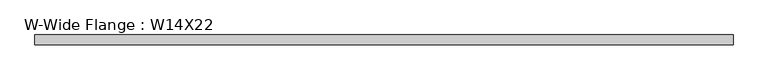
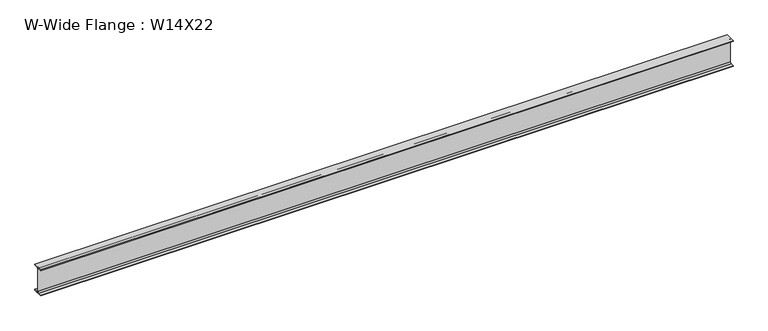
"""IFC4 building model written with IfcOpenShell, lengths in millimetres: beam geometry, W-Wide Flange : W14X22."""

from ifc_helpers import new_model, si_unit, point, frame, frame_2d, origin, place, context, project, spatial, polyline, circle_curve, trimmed, segment, composite_curve, outline, extrude, source, transform, mapped, element, save


def w_wide_flange_w14x22_4ceff1ba(model_context):
    return source(origin(), model_context, "Body", "SweptSolid", [
        extrude(outline(composite_curve([segment(polyline([(63.5, -165.481), (63.5, -173.99), (-63.5, -173.99), (-63.5, -165.481), (-21.3995, -165.481)]), True, "CONTINUOUS"), segment(trimmed(circle_curve(frame_2d((-21.3995, -147.0025)), 18.4785), [point((-21.3995, -165.481))], [point((-2.921, -147.0025))], True, "CARTESIAN"), True, "CONTINUOUS"), segment(polyline([(-2.921, -147.0025), (-2.921, 147.0025)]), True, "CONTINUOUS"), segment(trimmed(circle_curve(frame_2d((-21.3995, 147.0025)), 18.4785), [point((-2.921, 147.0025))], [point((-21.3995, 165.481))], True, "CARTESIAN"), True, "CONTINUOUS"), segment(polyline([(-21.3995, 165.481), (-63.5, 165.481), (-63.5, 173.99), (63.5, 173.99), (63.5, 165.481), (21.3995, 165.481)]), True, "CONTINUOUS"), segment(trimmed(circle_curve(frame_2d((21.3995, 147.0025)), 18.4785), [point((21.3995, 165.481))], [point((2.921, 147.0025))], True, "CARTESIAN"), True, "CONTINUOUS"), segment(polyline([(2.921, 147.0025), (2.921, -147.0025)]), True, "CONTINUOUS"), segment(trimmed(circle_curve(frame_2d((21.3995, -147.0025)), 18.4785), [point((2.921, -147.0025))], [point((21.3995, -165.481))], True, "CARTESIAN"), True, "CONTINUOUS"), segment(polyline([(21.3995, -165.481), (63.5, -165.481)]), True, "CONTINUOUS")], self_intersect=False)), frame((-4381.4503906, 0.0, 0.0), z_axis=(1.0, 0.0, 0.0), x_axis=(0.0, 1.0, 0.0)), (0.0, 0.0, 1.0), 8826.1963906),
    ])


if __name__ == "__main__":
    model = new_model("IFC4")
    model_context = context("Model", 3, world=origin())
    ifc_project = project(units=[si_unit("LENGTHUNIT", "METRE", prefix="MILLI")], contexts=[model_context])
    site = spatial("IfcSite", under=ifc_project)
    building = spatial("IfcBuilding", under=site)
    placement = place(None, origin())
    w_wide_flange_w14x22_shape = w_wide_flange_w14x22_4ceff1ba(model_context)
    element("IfcBeam", 1, ObjectType="W-Wide Flange : W14X22", at=placement, inside=building, context=model_context, shape_type="MappedRepresentation", body=[
        mapped(w_wide_flange_w14x22_shape, transform((0.0, 0.0, 0.0), x_axis=(1.0, 0.0, 0.0), y_axis=(0.0, 1.0, 0.0), z_axis=(0.0, 0.0, 1.0))),
    ])
    save(model, "model.ifc")
